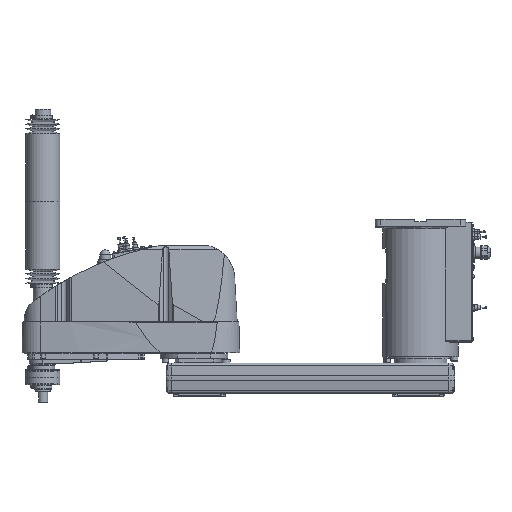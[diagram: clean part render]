
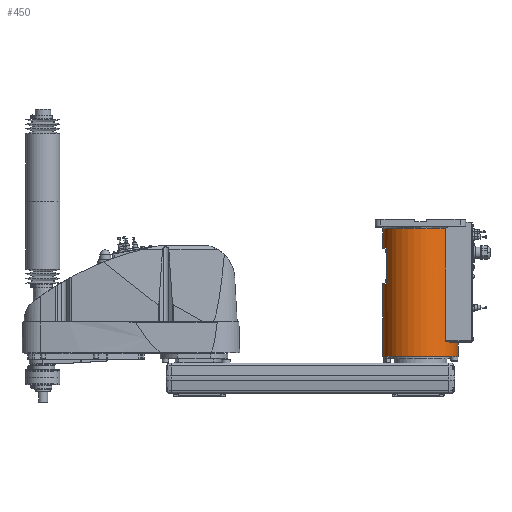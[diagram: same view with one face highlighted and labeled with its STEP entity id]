
A CAD part, top view. The second image highlights one B-rep face of the part: STEP entity #450.
In plain terms, the highlighted cylindrical face has radius 100 mm (diameter 200 mm), a partial arc.
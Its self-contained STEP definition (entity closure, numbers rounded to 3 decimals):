
#450 = ADVANCED_FACE( '', ( #2561 ), #2562, .T. );
#2561 = FACE_OUTER_BOUND( '', #7016, .T. );
#2562 = CYLINDRICAL_SURFACE( '', #7017, 100. );
#7016 = EDGE_LOOP( '', ( #11665, #11666, #11667, #11668, #11669, #11670, #11671, #11672, #11673, #11674, #11675, #11676, #11677, #11678, #11679, #11680 ) );
#7017 = AXIS2_PLACEMENT_3D( '', #11681, #11682, #11683 );
#11665 = ORIENTED_EDGE( '', *, *, #27705, .F. );
#11666 = ORIENTED_EDGE( '', *, *, #27706, .T. );
#11667 = ORIENTED_EDGE( '', *, *, #27707, .T. );
#11668 = ORIENTED_EDGE( '', *, *, #27708, .T. );
#11669 = ORIENTED_EDGE( '', *, *, #27709, .T. );
#11670 = ORIENTED_EDGE( '', *, *, #27710, .T. );
#11671 = ORIENTED_EDGE( '', *, *, #27711, .T. );
#11672 = ORIENTED_EDGE( '', *, *, #27712, .T. );
#11673 = ORIENTED_EDGE( '', *, *, #27713, .T. );
#11674 = ORIENTED_EDGE( '', *, *, #27714, .T. );
#11675 = ORIENTED_EDGE( '', *, *, #27715, .F. );
#11676 = ORIENTED_EDGE( '', *, *, #27716, .T. );
#11677 = ORIENTED_EDGE( '', *, *, #27717, .T. );
#11678 = ORIENTED_EDGE( '', *, *, #27718, .T. );
#11679 = ORIENTED_EDGE( '', *, *, #27719, .F. );
#11680 = ORIENTED_EDGE( '', *, *, #27720, .F. );
#11681 = CARTESIAN_POINT( '', ( 0., 194., 0. ) );
#11682 = DIRECTION( '', ( 0., 1., 0. ) );
#11683 = DIRECTION( '', ( 1., 0., 0. ) );
#27705 = EDGE_CURVE( '', #32831, #32832, #32833, .T. );
#27706 = EDGE_CURVE( '', #32831, #32834, #32835, .T. );
#27707 = EDGE_CURVE( '', #32834, #32836, #32837, .T. );
#27708 = EDGE_CURVE( '', #32836, #32838, #32839, .T. );
#27709 = EDGE_CURVE( '', #32838, #32840, #32841, .T. );
#27710 = EDGE_CURVE( '', #32840, #32842, #32843, .T. );
#27711 = EDGE_CURVE( '', #32842, #32844, #32845, .T. );
#27712 = EDGE_CURVE( '', #32844, #32846, #32847, .T. );
#27713 = EDGE_CURVE( '', #32846, #32848, #32849, .T. );
#27714 = EDGE_CURVE( '', #32848, #32850, #32851, .T. );
#27715 = EDGE_CURVE( '', #32852, #32850, #32853, .T. );
#27716 = EDGE_CURVE( '', #32852, #32854, #32855, .T. );
#27717 = EDGE_CURVE( '', #32854, #32856, #32857, .T. );
#27718 = EDGE_CURVE( '', #32856, #32858, #32859, .T. );
#27719 = EDGE_CURVE( '', #32860, #32858, #32861, .T. );
#27720 = EDGE_CURVE( '', #32832, #32860, #32862, .T. );
#32831 = VERTEX_POINT( '', #41085 );
#32832 = VERTEX_POINT( '', #41086 );
#32833 = LINE( '', #41087, #41088 );
#32834 = VERTEX_POINT( '', #41089 );
#32835 = CIRCLE( '', #41090, 100. );
#32836 = VERTEX_POINT( '', #41091 );
#32837 = LINE( '', #41092, #41093 );
#32838 = VERTEX_POINT( '', #41094 );
#32839 = CIRCLE( '', #41095, 100. );
#32840 = VERTEX_POINT( '', #41096 );
#32841 = LINE( '', #41097, #41098 );
#32842 = VERTEX_POINT( '', #41099 );
#32843 = CIRCLE( '', #41100, 100. );
#32844 = VERTEX_POINT( '', #41101 );
#32845 = B_SPLINE_CURVE_WITH_KNOTS( '', 3, ( #41102, #41103, #41104, #41105, #41106, #41107, #41108, #41109, #41110, #41111, #41112, #41113, #41114, #41115, #41116, #41117, #41118, #41119 ), .UNSPECIFIED., .F., .F., ( 4, 2, 2, 2, 2, 2, 2, 2, 4 ), ( -7.48, -6.36, -5.24, -4.12, -3., -2.25, -1.5, -0.75, 0. ), .UNSPECIFIED. );
#32846 = VERTEX_POINT( '', #41120 );
#32847 = LINE( '', #41121, #41122 );
#32848 = VERTEX_POINT( '', #41123 );
#32849 = CIRCLE( '', #41124, 100. );
#32850 = VERTEX_POINT( '', #41125 );
#32851 = CIRCLE( '', #41126, 100. );
#32852 = VERTEX_POINT( '', #41127 );
#32853 = LINE( '', #41128, #41129 );
#32854 = VERTEX_POINT( '', #41130 );
#32855 = CIRCLE( '', #41131, 100. );
#32856 = VERTEX_POINT( '', #41132 );
#32857 = LINE( '', #41133, #41134 );
#32858 = VERTEX_POINT( '', #41135 );
#32859 = CIRCLE( '', #41136, 100. );
#32860 = VERTEX_POINT( '', #41137 );
#32861 = LINE( '', #41138, #41139 );
#32862 = CIRCLE( '', #41140, 100. );
#41085 = CARTESIAN_POINT( '', ( 100., 64., 0. ) );
#41086 = CARTESIAN_POINT( '', ( 100., 25., 0. ) );
#41087 = CARTESIAN_POINT( '', ( 100., 194., 0. ) );
#41088 = VECTOR( '', #54626, 1. );
#41089 = CARTESIAN_POINT( '', ( 89.303, 64., 45. ) );
#41090 = AXIS2_PLACEMENT_3D( '', #54627, #54628, #54629 );
#41091 = CARTESIAN_POINT( '', ( 89.303, 62., 45. ) );
#41092 = CARTESIAN_POINT( '', ( 89.303, 63., 45. ) );
#41093 = VECTOR( '', #54630, 1. );
#41094 = CARTESIAN_POINT( '', ( 75.993, 62., 65. ) );
#41095 = AXIS2_PLACEMENT_3D( '', #54631, #54632, #54633 );
#41096 = CARTESIAN_POINT( '', ( 75.993, 64., 65. ) );
#41097 = CARTESIAN_POINT( '', ( 75.993, 63., 65. ) );
#41098 = VECTOR( '', #54634, 1. );
#41099 = CARTESIAN_POINT( '', ( 70.42, 64., 71. ) );
#41100 = AXIS2_PLACEMENT_3D( '', #54635, #54636, #54637 );
#41101 = CARTESIAN_POINT( '', ( 66.144, 68., 75. ) );
#41102 = CARTESIAN_POINT( '', ( 70.42, 64., 71. ) );
#41103 = CARTESIAN_POINT( '', ( 70.155, 64., 71.263 ) );
#41104 = CARTESIAN_POINT( '', ( 69.877, 64.026, 71.535 ) );
#41105 = CARTESIAN_POINT( '', ( 69.316, 64.139, 72.08 ) );
#41106 = CARTESIAN_POINT( '', ( 69.031, 64.224, 72.352 ) );
#41107 = CARTESIAN_POINT( '', ( 68.475, 64.457, 72.879 ) );
#41108 = CARTESIAN_POINT( '', ( 68.203, 64.604, 73.134 ) );
#41109 = CARTESIAN_POINT( '', ( 67.688, 64.954, 73.61 ) );
#41110 = CARTESIAN_POINT( '', ( 67.446, 65.158, 73.831 ) );
#41111 = CARTESIAN_POINT( '', ( 67.082, 65.542, 74.162 ) );
#41112 = CARTESIAN_POINT( '', ( 66.938, 65.716, 74.292 ) );
#41113 = CARTESIAN_POINT( '', ( 66.674, 66.103, 74.529 ) );
#41114 = CARTESIAN_POINT( '', ( 66.555, 66.315, 74.636 ) );
#41115 = CARTESIAN_POINT( '', ( 66.356, 66.766, 74.812 ) );
#41116 = CARTESIAN_POINT( '', ( 66.277, 67.005, 74.882 ) );
#41117 = CARTESIAN_POINT( '', ( 66.171, 67.497, 74.976 ) );
#41118 = CARTESIAN_POINT( '', ( 66.144, 67.75, 75. ) );
#41119 = CARTESIAN_POINT( '', ( 66.144, 68., 75. ) );
#41120 = CARTESIAN_POINT( '', ( 66.144, 363., 75. ) );
#41121 = CARTESIAN_POINT( '', ( 66.144, 215.5, 75. ) );
#41122 = VECTOR( '', #54638, 1. );
#41123 = CARTESIAN_POINT( '', ( 0., 363., 100. ) );
#41124 = AXIS2_PLACEMENT_3D( '', #54639, #54640, #54641 );
#41125 = CARTESIAN_POINT( '', ( -100., 363., 0. ) );
#41126 = AXIS2_PLACEMENT_3D( '', #54642, #54643, #54644 );
#41127 = CARTESIAN_POINT( '', ( -100., 311.3, 0. ) );
#41128 = CARTESIAN_POINT( '', ( -100., 194., 0. ) );
#41129 = VECTOR( '', #54645, 1. );
#41130 = CARTESIAN_POINT( '', ( -88., 311.3, 47.497 ) );
#41131 = AXIS2_PLACEMENT_3D( '', #54646, #54647, #54648 );
#41132 = CARTESIAN_POINT( '', ( -88., 218.3, 47.497 ) );
#41133 = CARTESIAN_POINT( '', ( -88., 264.8, 47.497 ) );
#41134 = VECTOR( '', #54649, 1. );
#41135 = CARTESIAN_POINT( '', ( -100., 218.3, 0. ) );
#41136 = AXIS2_PLACEMENT_3D( '', #54650, #54651, #54652 );
#41137 = CARTESIAN_POINT( '', ( -100., 25., 0. ) );
#41138 = CARTESIAN_POINT( '', ( -100., 194., 0. ) );
#41139 = VECTOR( '', #54653, 1. );
#41140 = AXIS2_PLACEMENT_3D( '', #54654, #54655, #54656 );
#54626 = DIRECTION( '', ( 0., -1., 0. ) );
#54627 = CARTESIAN_POINT( '', ( 0., 64., 0. ) );
#54628 = DIRECTION( '', ( 0., -1., 0. ) );
#54629 = DIRECTION( '', ( 1., 0., 0. ) );
#54630 = DIRECTION( '', ( 0., -1., 0. ) );
#54631 = CARTESIAN_POINT( '', ( 0., 62., 0. ) );
#54632 = DIRECTION( '', ( 0., -1., 0. ) );
#54633 = DIRECTION( '', ( 1., 0., 0. ) );
#54634 = DIRECTION( '', ( 0., 1., 0. ) );
#54635 = CARTESIAN_POINT( '', ( 0., 64., 0. ) );
#54636 = DIRECTION( '', ( 0., -1., 0. ) );
#54637 = DIRECTION( '', ( 1., 0., 0. ) );
#54638 = DIRECTION( '', ( 0., 1., 0. ) );
#54639 = CARTESIAN_POINT( '', ( 0., 363., 0. ) );
#54640 = DIRECTION( '', ( 0., -1., 0. ) );
#54641 = DIRECTION( '', ( 1., 0., 0. ) );
#54642 = CARTESIAN_POINT( '', ( 0., 363., 0. ) );
#54643 = DIRECTION( '', ( 0., -1., 0. ) );
#54644 = DIRECTION( '', ( 1., 0., 0. ) );
#54645 = DIRECTION( '', ( 0., 1., 0. ) );
#54646 = CARTESIAN_POINT( '', ( 0., 311.3, 0. ) );
#54647 = DIRECTION( '', ( 0., 1., 0. ) );
#54648 = DIRECTION( '', ( 1., 0., 0. ) );
#54649 = DIRECTION( '', ( 0., -1., 0. ) );
#54650 = CARTESIAN_POINT( '', ( 0., 218.3, 0. ) );
#54651 = DIRECTION( '', ( 0., -1., 0. ) );
#54652 = DIRECTION( '', ( 1., 0., 0. ) );
#54653 = DIRECTION( '', ( 0., 1., 0. ) );
#54654 = CARTESIAN_POINT( '', ( 0., 25., 0. ) );
#54655 = DIRECTION( '', ( 0., -1., 0. ) );
#54656 = DIRECTION( '', ( 1., 0., 0. ) );
